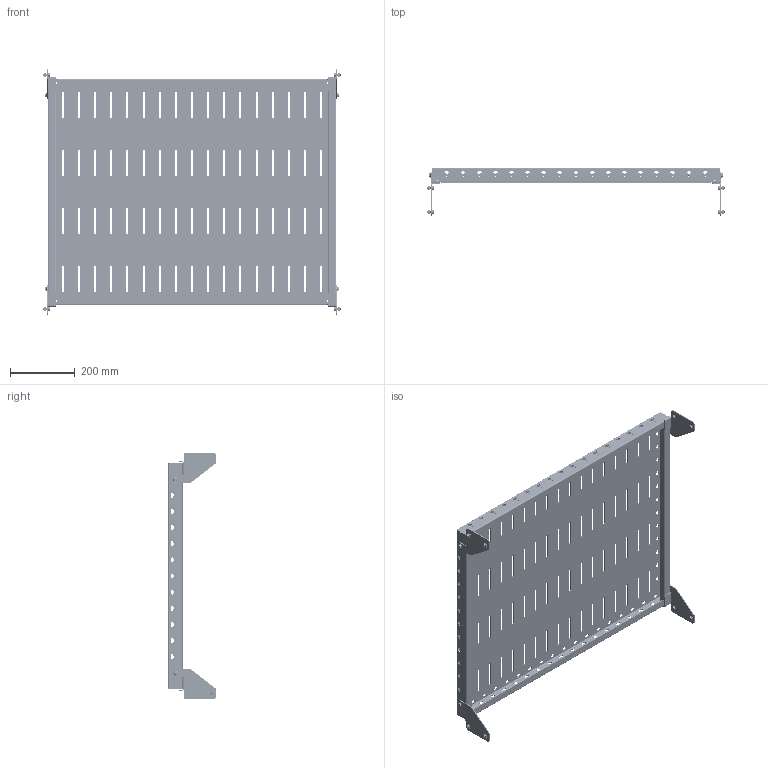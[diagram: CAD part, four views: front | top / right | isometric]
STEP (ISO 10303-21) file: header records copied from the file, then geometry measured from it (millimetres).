
FILE_DESCRIPTION (( 'STEP AP203' ), '1' );
FILE_NAME ('R5RFE108.STEP', '2022-06-29T08:36:49', ( '' ), ( '' ), 'SwSTEP 2.0', 'SolidWorks 2020', '' );
FILE_SCHEMA (( 'CONFIG_CONTROL_DESIGN' ));
Length unit declared in the file: millimetre
Products named in the file (7): R5RFE108; M6 A3400002 Zinc_thread; Ì6 D87181 Zinc_In a tightened position (1.5 mm); RB.1704.00.00.0_- 01; RB.1704.00.00.0_-00; RB.2364.00.00.0_10; M6x16 DIN 6921 cl.8,8 Zinc_thread
Assembly tree (29 placements, depth 2):
  R5RFE108
    RB.2364.00.00.0_10
    RB.1704.00.00.0_- 01  x2
    M6 A3400002 Zinc_thread  x8
    M6x16 DIN 6921 cl.8,8 Zinc_thread  x12
    RB.1704.00.00.0_-00  x2
    Ì6 D87181 Zinc_In a tightened position (1.5 mm)  x4
Bounding box: 926 x 148.6 x 765 mm (x, y, z)
Volume: 1742697 mm3; surface area: 1760409.7 mm2
Topology: 29 solids, 29 shells, 5970 faces, 16624 edges, 10660 vertices
Faces by surface type: cylinder 2508, plane 2074, cone 1076, bspline 216, torus 96
Entity records: 106418 total; most frequent: CARTESIAN_POINT 20617, DIRECTION 18071, ORIENTED_EDGE 17804, EDGE_CURVE 8902, AXIS2_PLACEMENT_3D 6379, VERTEX_POINT 5847, VECTOR 5313, LINE 5313
